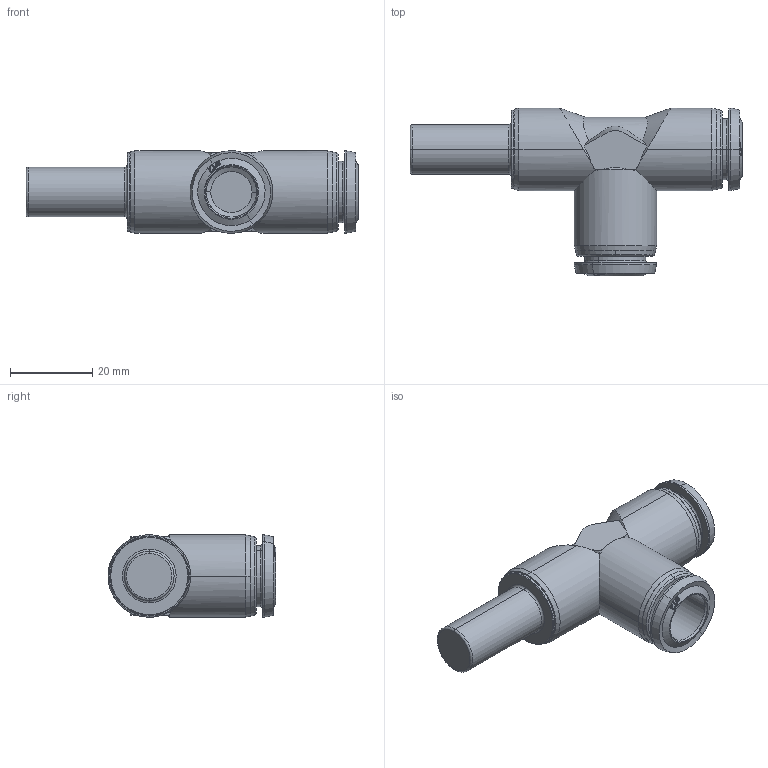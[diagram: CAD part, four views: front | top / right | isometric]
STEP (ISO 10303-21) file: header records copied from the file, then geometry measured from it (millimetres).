
FILE_DESCRIPTION (( 'STEP AP214' ), '1' );
FILE_NAME ('5523500007A.STEP', '2025-09-05T12:48:22', ( '' ), ( '' ), 'SwSTEP 2.0', 'SolidWorks 2020', '' );
FILE_SCHEMA (( 'AUTOMOTIVE_DESIGN' ));
Length unit declared in the file: millimetre
Products named in the file (1): 5523500007A
Bounding box: 80.5 x 40.7 x 20 mm (x, y, z)
Volume: 19870 mm3; surface area: 8709.9 mm2
Topology: 1 solids, 3 shells, 200 faces, 493 edges, 317 vertices
Faces by surface type: bspline 83, cone 48, plane 29, cylinder 28, torus 12
Entity records: 13205 total; most frequent: CARTESIAN_POINT 7078, ORIENTED_EDGE 986, DIRECTION 537, EDGE_CURVE 493, VERTEX_POINT 317, B_SPLINE_CURVE_WITH_KNOTS 282, AXIS2_PLACEMENT_3D 228, EDGE_LOOP 218
